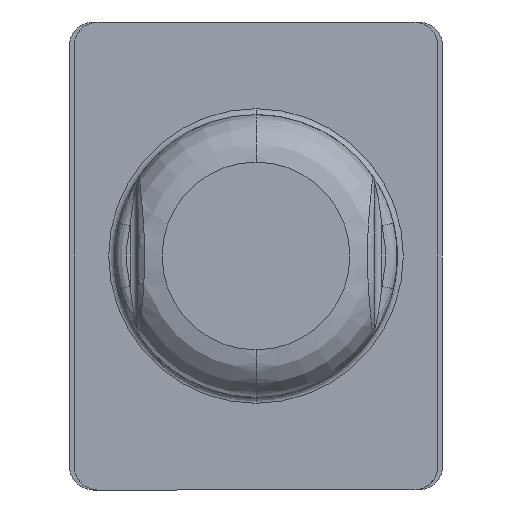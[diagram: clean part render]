
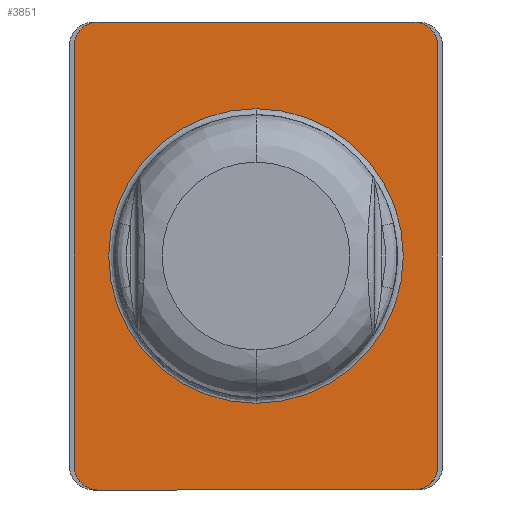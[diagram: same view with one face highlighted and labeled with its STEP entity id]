
A CAD part, front view. The second image highlights one B-rep face of the part: STEP entity #3851.
In plain terms, the highlighted planar face has unit normal (0, -1, 0).
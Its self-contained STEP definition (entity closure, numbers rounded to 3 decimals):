
#3553=CARTESIAN_POINT('',(-25.529,113.046,13.751));
#3554=VERTEX_POINT('',#3553);
#3555=CARTESIAN_POINT('',(-26.529,113.046,14.751));
#3556=VERTEX_POINT('',#3555);
#3557=CARTESIAN_POINT('',(-25.529,113.046,14.751));
#3558=DIRECTION('',(0.0,1.0,0.0));
#3559=DIRECTION('',(-1.0,0.0,0.));
#3560=AXIS2_PLACEMENT_3D('',#3557,#3558,#3559);
#3561=CIRCLE('',#3560,1.0);
#3562=EDGE_CURVE('',#3554,#3556,#3561,.T.);
#3595=CARTESIAN_POINT('',(-26.529,113.046,32.451));
#3596=VERTEX_POINT('',#3595);
#3597=CARTESIAN_POINT('',(-26.529,113.046,14.751));
#3598=DIRECTION('',(0.0,0.0,1.0));
#3599=VECTOR('',#3598,17.7);
#3600=LINE('',#3597,#3599);
#3601=EDGE_CURVE('',#3556,#3596,#3600,.T.);
#3636=CARTESIAN_POINT('',(-25.529,113.046,33.451));
#3637=VERTEX_POINT('',#3636);
#3638=CARTESIAN_POINT('',(-25.529,113.046,32.451));
#3639=DIRECTION('',(0.0,-1.0,0.0));
#3640=DIRECTION('',(0.0,0.0,1.0));
#3641=AXIS2_PLACEMENT_3D('',#3638,#3639,#3640);
#3642=CIRCLE('',#3641,1.0);
#3643=EDGE_CURVE('',#3637,#3596,#3642,.T.);
#3661=CARTESIAN_POINT('',(-12.229,113.046,13.751));
#3662=VERTEX_POINT('',#3661);
#3681=CARTESIAN_POINT('',(-11.229,113.046,14.751));
#3682=VERTEX_POINT('',#3681);
#3689=CARTESIAN_POINT('',(-12.229,113.046,13.751));
#3690=CARTESIAN_POINT('',(-12.14,113.046,13.751));
#3691=CARTESIAN_POINT('',(-11.887,113.046,13.785));
#3692=CARTESIAN_POINT('',(-11.515,113.046,13.994));
#3693=CARTESIAN_POINT('',(-11.274,113.046,14.37));
#3694=CARTESIAN_POINT('',(-11.229,113.046,14.643));
#3695=CARTESIAN_POINT('',(-11.229,113.046,14.751));
#3696=B_SPLINE_CURVE_WITH_KNOTS('',3,(#3689,#3690,#3691,#3692,#3693,#3694,#3695),.UNSPECIFIED.,.F.,.U.,(4,1,1,1,4),(0.0,0.269,0.756,1.244,1.571),.UNSPECIFIED.);
#3697=EDGE_CURVE('',#3662,#3682,#3696,.T.);
#3716=CARTESIAN_POINT('',(-11.229,113.046,32.451));
#3717=VERTEX_POINT('',#3716);
#3724=CARTESIAN_POINT('',(-11.229,113.046,14.751));
#3725=DIRECTION('',(0.0,0.0,1.0));
#3726=VECTOR('',#3725,17.7);
#3727=LINE('',#3724,#3726);
#3728=EDGE_CURVE('',#3682,#3717,#3727,.T.);
#3740=CARTESIAN_POINT('',(-12.229,113.046,33.451));
#3741=VERTEX_POINT('',#3740);
#3748=CARTESIAN_POINT('',(-12.229,113.046,33.451));
#3749=CARTESIAN_POINT('',(-12.12,113.046,33.451));
#3750=CARTESIAN_POINT('',(-11.848,113.046,33.407));
#3751=CARTESIAN_POINT('',(-11.472,113.046,33.165));
#3752=CARTESIAN_POINT('',(-11.263,113.046,32.793));
#3753=CARTESIAN_POINT('',(-11.229,113.046,32.54));
#3754=CARTESIAN_POINT('',(-11.229,113.046,32.451));
#3755=B_SPLINE_CURVE_WITH_KNOTS('',3,(#3748,#3749,#3750,#3751,#3752,#3753,#3754),.UNSPECIFIED.,.F.,.U.,(4,1,1,1,4),(0.0,0.327,0.815,1.302,1.571),.UNSPECIFIED.);
#3756=EDGE_CURVE('',#3741,#3717,#3755,.T.);
#3784=CARTESIAN_POINT('',(-25.529,113.046,13.751));
#3785=DIRECTION('',(1.0,0.0,0.0));
#3786=VECTOR('',#3785,13.3);
#3787=LINE('',#3784,#3786);
#3788=EDGE_CURVE('',#3554,#3662,#3787,.T.);
#3806=CARTESIAN_POINT('',(-25.529,113.046,33.451));
#3807=DIRECTION('',(1.0,0.0,0.0));
#3808=VECTOR('',#3807,13.3);
#3809=LINE('',#3806,#3808);
#3810=EDGE_CURVE('',#3637,#3741,#3809,.T.);
#3816=CARTESIAN_POINT('',(-26.537,113.046,11.515));
#3817=DIRECTION('',(0.0,1.0,0.0));
#3818=DIRECTION('',(0.0,0.0,1.0));
#3819=AXIS2_PLACEMENT_3D('',#3816,#3817,#3818);
#3820=PLANE('',#3819);
#3821=ORIENTED_EDGE('',*,*,#3788,.T.);
#3822=ORIENTED_EDGE('',*,*,#3697,.T.);
#3823=ORIENTED_EDGE('',*,*,#3728,.T.);
#3824=ORIENTED_EDGE('',*,*,#3756,.F.);
#3825=ORIENTED_EDGE('',*,*,#3810,.F.);
#3826=ORIENTED_EDGE('',*,*,#3643,.T.);
#3827=ORIENTED_EDGE('',*,*,#3601,.F.);
#3828=ORIENTED_EDGE('',*,*,#3562,.F.);
#3829=EDGE_LOOP('',(#3821,#3822,#3823,#3824,#3825,#3826,#3827,#3828));
#3830=FACE_OUTER_BOUND('',#3829,.T.);
#3831=CARTESIAN_POINT('',(-18.879,113.046,17.401));
#3832=VERTEX_POINT('',#3831);
#3833=CARTESIAN_POINT('',(-18.879,113.046,29.801));
#3834=VERTEX_POINT('',#3833);
#3835=CARTESIAN_POINT('',(-18.879,113.046,23.601));
#3836=DIRECTION('',(0.0,1.0,0.0));
#3837=DIRECTION('',(0.0,0.0,-1.0));
#3838=AXIS2_PLACEMENT_3D('',#3835,#3836,#3837);
#3839=CIRCLE('',#3838,6.2);
#3840=EDGE_CURVE('',#3832,#3834,#3839,.T.);
#3841=ORIENTED_EDGE('',*,*,#3840,.T.);
#3842=CARTESIAN_POINT('',(-18.879,113.046,23.601));
#3843=DIRECTION('',(0.0,1.0,0.0));
#3844=DIRECTION('',(0.,0.0,1.0));
#3845=AXIS2_PLACEMENT_3D('',#3842,#3843,#3844);
#3846=CIRCLE('',#3845,6.2);
#3847=EDGE_CURVE('',#3834,#3832,#3846,.T.);
#3848=ORIENTED_EDGE('',*,*,#3847,.T.);
#3849=EDGE_LOOP('',(#3841,#3848));
#3850=FACE_BOUND('',#3849,.T.);
#3851=ADVANCED_FACE('',(#3830,#3850),#3820,.F.);
